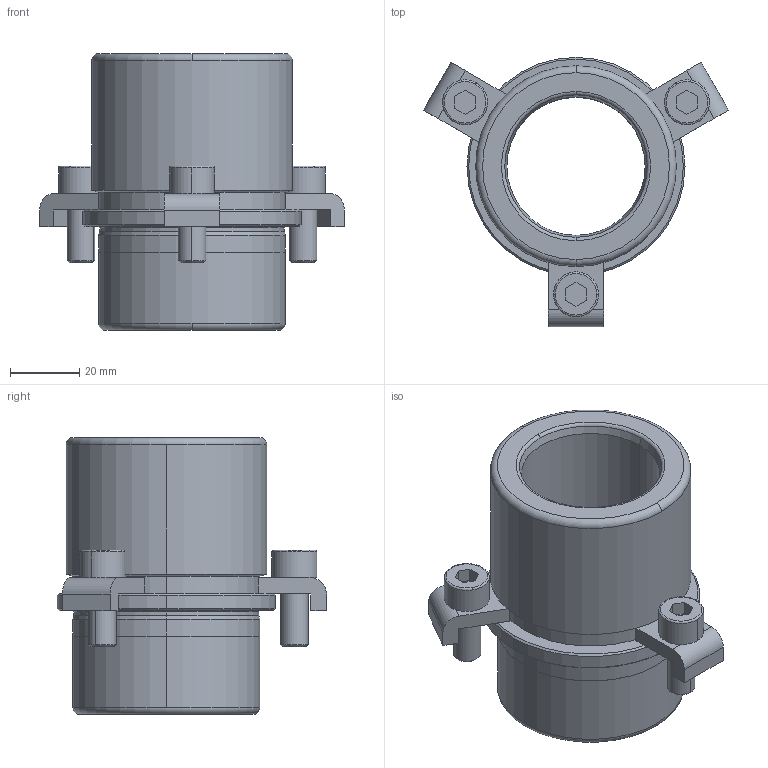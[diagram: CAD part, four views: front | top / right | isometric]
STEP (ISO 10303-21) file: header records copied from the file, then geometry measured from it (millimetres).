
FILE_DESCRIPTION((''),'2;1');
FILE_NAME('B40_032_050.stp','2009-01-05T16:28:52',(''),(''),'Mechanical Desktop 2009','Mechanical Desktop 2009',', , ');
FILE_SCHEMA(('CONFIG_CONTROL_DESIGN'));
Length unit declared in the file: millimetre
Products named in the file (2): Product; blmdl1
Assembly tree (1 placements, depth 2):
  Product
    blmdl1
Bounding box: 88.14 x 77.8 x 80 mm (x, y, z)
Volume: 109995.4 mm3; surface area: 34725.5 mm2
Topology: 7 solids, 7 shells, 147 faces, 362 edges, 238 vertices
Faces by surface type: plane 62, cylinder 41, cone 20, torus 14, bspline 10
Entity records: 4933 total; most frequent: CARTESIAN_POINT 1189, DIRECTION 824, ORIENTED_EDGE 724, EDGE_CURVE 362, AXIS2_PLACEMENT_3D 323, VERTEX_POINT 238, CIRCLE 184, VECTOR 178
